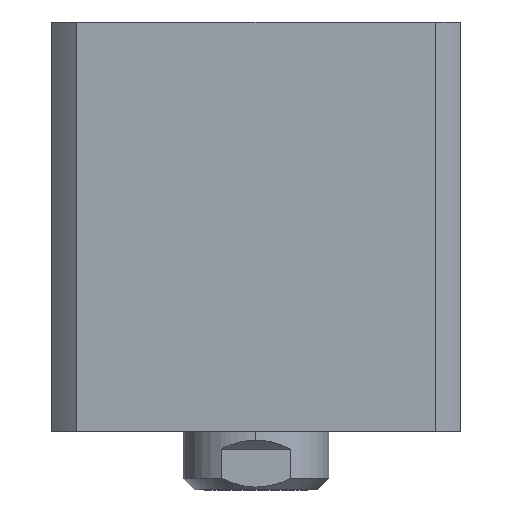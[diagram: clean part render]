
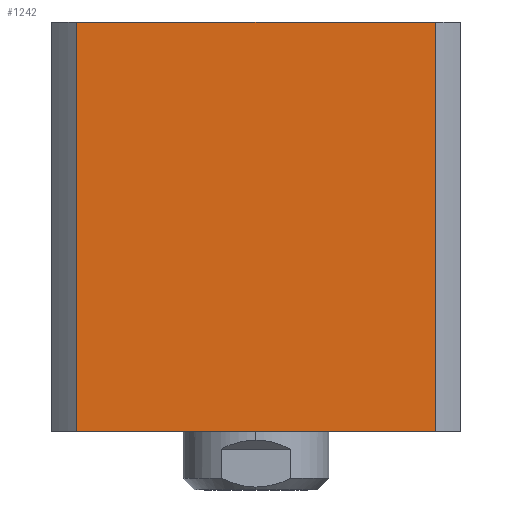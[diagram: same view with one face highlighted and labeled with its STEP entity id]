
A CAD part, front view. The second image highlights one B-rep face of the part: STEP entity #1242.
In plain terms, the highlighted planar face has unit normal (0, -1, 0).
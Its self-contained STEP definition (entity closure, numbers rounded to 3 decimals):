
#37 = ORIENTED_EDGE ( 'NONE', *, *, #319, .F. ) ;
#217 = FACE_OUTER_BOUND ( 'NONE', #9113, .T. ) ;
#319 = EDGE_CURVE ( 'NONE', #5611, #949, #8864, .T. ) ;
#384 = CARTESIAN_POINT ( 'NONE',  ( 30.615, -35., 0. ) ) ;
#635 = AXIS2_PLACEMENT_3D ( 'NONE', #6458, #5631, #7814 ) ;
#641 = DIRECTION ( 'NONE',  ( 0., 0., 1. ) ) ;
#679 = ORIENTED_EDGE ( 'NONE', *, *, #9626, .F. ) ;
#949 = VERTEX_POINT ( 'NONE', #384 ) ;
#1242 = ADVANCED_FACE ( 'NONE', ( #217 ), #2578, .F. ) ;
#1429 = DIRECTION ( 'NONE',  ( 1., 0., 0. ) ) ;
#1569 = VECTOR ( 'NONE', #1429, 1000. ) ;
#1803 = DIRECTION ( 'NONE',  ( 0., 0., -1. ) ) ;
#2578 = PLANE ( 'NONE',  #635 ) ;
#2833 = VECTOR ( 'NONE', #3271, 1000. ) ;
#2961 = VECTOR ( 'NONE', #1803, 1000. ) ;
#3137 = CARTESIAN_POINT ( 'NONE',  ( -30.615, -35., 70. ) ) ;
#3271 = DIRECTION ( 'NONE',  ( 1., 0., 0. ) ) ;
#3435 = EDGE_CURVE ( 'NONE', #8852, #5638, #10027, .T. ) ;
#3816 = CARTESIAN_POINT ( 'NONE',  ( -30.615, -35., 300. ) ) ;
#4807 = CARTESIAN_POINT ( 'NONE',  ( -35., -35., 70. ) ) ;
#4913 = LINE ( 'NONE', #4807, #2833 ) ;
#5189 = CARTESIAN_POINT ( 'NONE',  ( 30.615, -35., 300. ) ) ;
#5611 = VERTEX_POINT ( 'NONE', #6981 ) ;
#5631 = DIRECTION ( 'NONE',  ( 0., 1., 0. ) ) ;
#5638 = VERTEX_POINT ( 'NONE', #3137 ) ;
#5740 = VECTOR ( 'NONE', #641, 1000. ) ;
#5768 = LINE ( 'NONE', #6131, #1569 ) ;
#6131 = CARTESIAN_POINT ( 'NONE',  ( -35., -35., 0. ) ) ;
#6138 = ORIENTED_EDGE ( 'NONE', *, *, #8655, .T. ) ;
#6458 = CARTESIAN_POINT ( 'NONE',  ( -35., -35., 70. ) ) ;
#6981 = CARTESIAN_POINT ( 'NONE',  ( 30.615, -35., 70. ) ) ;
#7814 = DIRECTION ( 'NONE',  ( 0., 0., 1. ) ) ;
#8655 = EDGE_CURVE ( 'NONE', #8852, #949, #5768, .T. ) ;
#8852 = VERTEX_POINT ( 'NONE', #9287 ) ;
#8864 = LINE ( 'NONE', #5189, #2961 ) ;
#9113 = EDGE_LOOP ( 'NONE', ( #37, #679, #9174, #6138 ) ) ;
#9174 = ORIENTED_EDGE ( 'NONE', *, *, #3435, .F. ) ;
#9287 = CARTESIAN_POINT ( 'NONE',  ( -30.615, -35., 0. ) ) ;
#9626 = EDGE_CURVE ( 'NONE', #5638, #5611, #4913, .T. ) ;
#10027 = LINE ( 'NONE', #3816, #5740 ) ;
